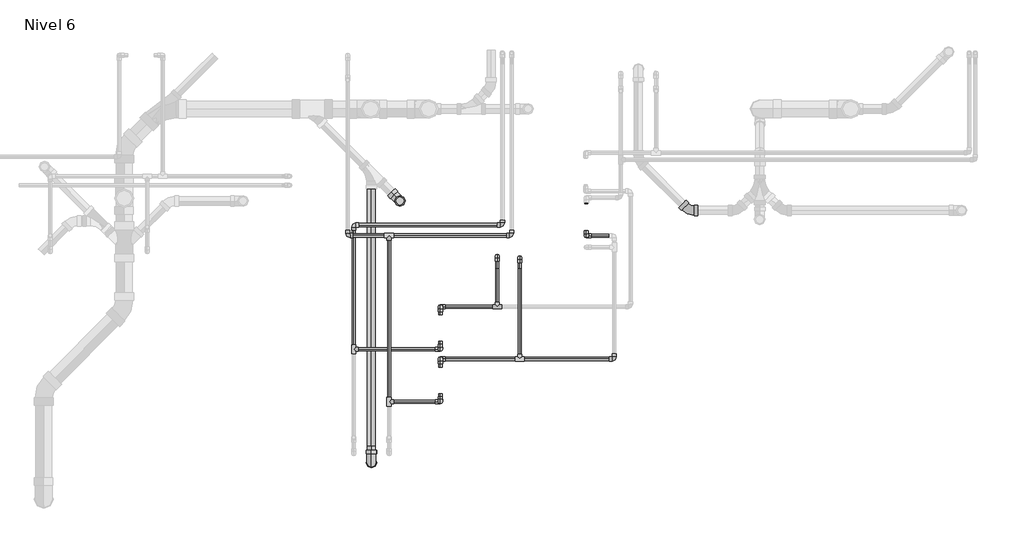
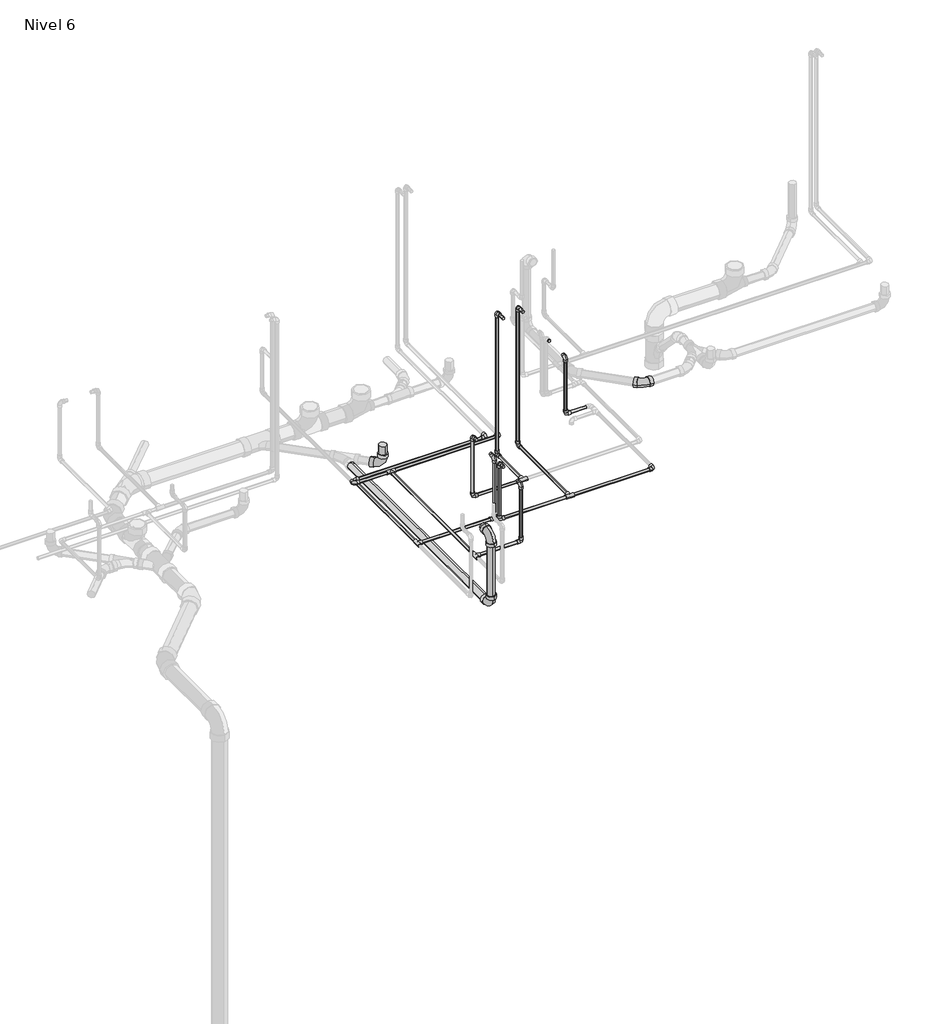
# One storey, part 4 of 11: 31 pipe segments, 28 pipe fittings.
"""IFC4 building model written with IfcOpenShell, lengths in millimetres."""

from ifc_helpers import new_model, si_unit, point, frame, frame_2d, origin, place, context, project, spatial, circle_curve, trimmed, segment, composite_curve, outline, extrude, transform, mapped, element, save
from components import pipe_fitting_ab418b84, m_codo_pvc_serie_40_9ad74631, m_codo_pvc_serie_40_dwv1_5c0ec739, m_codo_pvc_serie_40_dwv1_6f1a2495

model = new_model("IFC4")

# Units and contexts
model_context = context("Model", 3, world=origin())
ifc_project = project(units=[si_unit("LENGTHUNIT", "METRE", prefix="MILLI")], contexts=[model_context])

# Site, building, storey
site = spatial("IfcSite", under=ifc_project)
building = spatial("IfcBuilding", under=site)
storey = spatial("IfcBuildingStorey", under=building, Name="Nivel 6", Elevation=13400.0)

# Pipe fittings
placement = place(None, origin())
pipe_fitting_shape = pipe_fitting_ab418b84(model_context)
element("IfcPipeFitting", 1, ObjectType="M_Te - PVC - Serie 40 : Estándar", at=placement, inside=storey, context=model_context, shape_type="MappedRepresentation", body=[
    mapped(pipe_fitting_shape, transform((4953.4727327, 4599.4268515, 13350.0), x_axis=(0.0, 1.0, 0.0), y_axis=(-1.0, 0.0, 0.0), z_axis=(0.0, 0.0, 1.0))),
])
element("IfcPipeFitting", 2, ObjectType="M_Te - PVC - Serie 40 : Estándar", at=placement, inside=storey, context=model_context, shape_type="MappedRepresentation", body=[
    mapped(pipe_fitting_shape, transform((4716.7158993, 4949.4268515, 13320.0), x_axis=(0.0, 1.0, 0.0), y_axis=(-1.0, 0.0, 0.0), z_axis=(0.0, 0.0, 1.0))),
])
element("IfcPipeFitting", 3, ObjectType="M_Te - PVC - Serie 40 : Estándar", at=placement, inside=storey, context=model_context, shape_type="MappedRepresentation", body=[
    mapped(pipe_fitting_shape, transform((4953.4727327, 5709.8870077, 13350.0), x_axis=(-1.0, 0.0, 0.0), y_axis=(0.0, 1.0, 0.0), z_axis=(0.0, 0.0, -1.0))),
])
element("IfcPipeFitting", 4, ObjectType="M_Te - PVC - Serie 40 : Estándar", at=placement, inside=storey, context=model_context, shape_type="MappedRepresentation", body=[
    mapped(pipe_fitting_shape, transform((5676.7372643, 5234.4268515, 13320.0), x_axis=(1.0, 0.0, 0.0), y_axis=(0.0, -1.0, 0.0), z_axis=(0.0, 0.0, -1.0))),
])
element("IfcPipeFitting", 5, ObjectType="M_Te - PVC - Serie 40 : Estándar", at=placement, inside=storey, context=model_context, shape_type="MappedRepresentation", body=[
    mapped(pipe_fitting_shape, transform((5826.7372643, 4884.4268515, 13350.0), x_axis=(-1.0, 0.0, 0.0), y_axis=(0.0, -1.0, 0.0), z_axis=(0.0, 0.0, 1.0))),
])
m_codo_pvc_serie_40_shape = m_codo_pvc_serie_40_9ad74631(model_context)
element("IfcPipeFitting", 6, ObjectType="M_Codo - PVC - Serie 40 : Estándar", at=placement, inside=storey, context=model_context, shape_type="MappedRepresentation", body=[
    mapped(m_codo_pvc_serie_40_shape, transform((6273.0126322, 5708.0981896, 13350.0), x_axis=(-1.0, 0.0, 0.0), y_axis=(0.0, 0.0, 1.0), z_axis=(0.0, 1.0, 0.0))),
])
element("IfcPipeFitting", 7, ObjectType="M_Codo - PVC - Serie 40 : Estándar", at=placement, inside=storey, context=model_context, shape_type="MappedRepresentation", body=[
    mapped(m_codo_pvc_serie_40_shape, transform((6273.0126322, 5708.0981896, 13800.0), x_axis=(0.0, 0.0, 1.0), y_axis=(0.0, 1.0, 0.0), z_axis=(-1.0, 0.0, 0.0))),
])
element("IfcPipeFitting", 8, ObjectType="M_Codo - PVC - Serie 40 : Estándar", at=placement, inside=storey, context=model_context, shape_type="MappedRepresentation", body=[
    mapped(m_codo_pvc_serie_40_shape, transform((5297.1819258, 5234.4268515, 13800.0), x_axis=(0.0, 0.0, 1.0), y_axis=(0.0, -1.0, 0.0), z_axis=(1.0, 0.0, 0.0))),
])
element("IfcPipeFitting", 9, ObjectType="M_Codo - PVC - Serie 40 : Estándar", at=placement, inside=storey, context=model_context, shape_type="MappedRepresentation", body=[
    mapped(m_codo_pvc_serie_40_shape, transform((5297.1819258, 4949.4268515, 13800.0), x_axis=(0.0, -1.0, 0.0), y_axis=(0.0, 0.0, -1.0), z_axis=(1.0, 0.0, 0.0))),
])
element("IfcPipeFitting", 10, ObjectType="M_Codo - PVC - Serie 40 : Estándar", at=placement, inside=storey, context=model_context, shape_type="MappedRepresentation", body=[
    mapped(m_codo_pvc_serie_40_shape, transform((5297.1819258, 4949.4268515, 13320.0), x_axis=(0.0, 0.0, -1.0), y_axis=(-1.0, 0.0, 0.0), z_axis=(0.0, 1.0, 0.0))),
])
element("IfcPipeFitting", 11, ObjectType="M_Codo - PVC - Serie 40 : Estándar", at=placement, inside=storey, context=model_context, shape_type="MappedRepresentation", body=[
    mapped(m_codo_pvc_serie_40_shape, transform((5297.1819258, 4599.4268515, 13800.0), x_axis=(0.0, 0.0, 1.0), y_axis=(0.0, 1.0, 0.0), z_axis=(-1.0, 0.0, 0.0))),
])
element("IfcPipeFitting", 12, ObjectType="M_Codo - PVC - Serie 40 : Estándar", at=placement, inside=storey, context=model_context, shape_type="MappedRepresentation", body=[
    mapped(m_codo_pvc_serie_40_shape, transform((5297.1819258, 4884.4268515, 13800.0), x_axis=(0.0, 1.0, 0.0), y_axis=(0.0, 0.0, -1.0), z_axis=(-1.0, 0.0, 0.0))),
])
element("IfcPipeFitting", 13, ObjectType="M_Codo - PVC - Serie 40 : Estándar", at=placement, inside=storey, context=model_context, shape_type="MappedRepresentation", body=[
    mapped(m_codo_pvc_serie_40_shape, transform((5297.1819258, 4599.4268515, 13350.0), x_axis=(0.0, 0.0, -1.0), y_axis=(-1.0, 0.0, 0.0), z_axis=(0.0, 1.0, 0.0))),
])
element("IfcPipeFitting", 14, ObjectType="M_Codo - PVC - Serie 40 : Estándar", at=placement, inside=storey, context=model_context, shape_type="MappedRepresentation", body=[
    mapped(m_codo_pvc_serie_40_shape, transform((5711.6896051, 5779.8870077, 13320.0), x_axis=(1.0, 0.0, 0.0), y_axis=(0.0, 1.0, 0.0), z_axis=(0.0, 0.0, 1.0))),
])
element("IfcPipeFitting", 15, ObjectType="M_Codo - PVC - Serie 40 : Estándar", at=placement, inside=storey, context=model_context, shape_type="MappedRepresentation", body=[
    mapped(m_codo_pvc_serie_40_shape, transform((4716.7158993, 5779.8870077, 13320.0), x_axis=(-1.0, 0.0, 0.0), y_axis=(0.0, -1.0, 0.0), z_axis=(0.0, 0.0, 1.0))),
])
element("IfcPipeFitting", 16, ObjectType="M_Codo - PVC - Serie 40 : Estándar", at=placement, inside=storey, context=model_context, shape_type="MappedRepresentation", body=[
    mapped(m_codo_pvc_serie_40_shape, transform((5773.0126322, 5709.8870077, 13350.0), x_axis=(1.0, 0.0, 0.0), y_axis=(0.0, 1.0, 0.0), z_axis=(0.0, 0.0, 1.0))),
])
element("IfcPipeFitting", 17, ObjectType="M_Codo - PVC - Serie 40 : Estándar", at=placement, inside=storey, context=model_context, shape_type="MappedRepresentation", body=[
    mapped(m_codo_pvc_serie_40_shape, transform((4677.808318, 5709.8870077, 13350.0), x_axis=(0.0, -1.0, 0.0), y_axis=(1.0, 0.0, 0.0), z_axis=(0.0, 0.0, 1.0))),
])
element("IfcPipeFitting", 18, ObjectType="M_Codo - PVC - Serie 40 : Estándar", at=placement, inside=storey, context=model_context, shape_type="MappedRepresentation", body=[
    mapped(m_codo_pvc_serie_40_shape, transform((5826.7372643, 5560.6395855, 14450.0), x_axis=(0.0, 1.0, 0.0), y_axis=(0.0, 0.0, -1.0), z_axis=(-1.0, 0.0, 0.0))),
])
element("IfcPipeFitting", 19, ObjectType="M_Codo - PVC - Serie 40 : Estándar", at=placement, inside=storey, context=model_context, shape_type="MappedRepresentation", body=[
    mapped(m_codo_pvc_serie_40_shape, transform((5297.1819258, 4884.4268515, 13350.0), x_axis=(0.0, 0.0, -1.0), y_axis=(1.0, 0.0, 0.0), z_axis=(0.0, -1.0, 0.0))),
])
element("IfcPipeFitting", 20, ObjectType="M_Codo - PVC - Serie 40 : Estándar", at=placement, inside=storey, context=model_context, shape_type="MappedRepresentation", body=[
    mapped(m_codo_pvc_serie_40_shape, transform((5676.7372643, 5570.6395855, 14450.0), x_axis=(0.0, 1.0, 0.0), y_axis=(0.0, 0.0, -1.0), z_axis=(-1.0, 0.0, 0.0))),
])
element("IfcPipeFitting", 21, ObjectType="M_Codo - PVC - Serie 40 : Estándar", at=placement, inside=storey, context=model_context, shape_type="MappedRepresentation", body=[
    mapped(m_codo_pvc_serie_40_shape, transform((5676.7372643, 5570.6395855, 13320.0), x_axis=(0.0, 0.0, -1.0), y_axis=(0.0, -1.0, 0.0), z_axis=(-1.0, 0.0, 0.0))),
])
element("IfcPipeFitting", 22, ObjectType="M_Codo - PVC - Serie 40 : Estándar", at=placement, inside=storey, context=model_context, shape_type="MappedRepresentation", body=[
    mapped(m_codo_pvc_serie_40_shape, transform((5297.1819258, 5234.4268515, 13320.0), x_axis=(0.0, 0.0, -1.0), y_axis=(1.0, 0.0, 0.0), z_axis=(0.0, -1.0, 0.0))),
])
element("IfcPipeFitting", 23, ObjectType="M_Codo - PVC - Serie 40 : Estándar", at=placement, inside=storey, context=model_context, shape_type="MappedRepresentation", body=[
    mapped(m_codo_pvc_serie_40_shape, transform((5826.7372643, 5560.6395855, 13350.0), x_axis=(0.0, 0.0, -1.0), y_axis=(0.0, -1.0, 0.0), z_axis=(-1.0, 0.0, 0.0))),
])
element("IfcPipeFitting", 24, ObjectType="M_Codo - PVC - Serie 40 : Estándar", at=placement, inside=storey, context=model_context, shape_type="MappedRepresentation", body=[
    mapped(m_codo_pvc_serie_40_shape, transform((6459.9908844, 4884.4268515, 13350.0), x_axis=(1.0, 0.0, 0.0), y_axis=(0.0, 1.0, 0.0), z_axis=(0.0, 0.0, 1.0))),
])
m_codo_pvc_serie_40_dwv1_shape = m_codo_pvc_serie_40_dwv1_5c0ec739(model_context)
element("IfcPipeFitting", 25, ObjectType="M_Codo - PVC - Serie 40 - DWV1 : Estándar 2", at=placement, inside=storey, context=model_context, shape_type="MappedRepresentation", body=[
    mapped(m_codo_pvc_serie_40_dwv1_shape, transform((4835.094316, 4192.0580366, 13810.6716548), x_axis=(0.0, -1.0, 0.0), y_axis=(0.0, 0.0, -1.0), z_axis=(1.0, 0.0, 0.0))),
])
element("IfcPipeFitting", 26, ObjectType="M_Codo - PVC - Serie 40 - DWV1 : Estándar 2", at=placement, inside=storey, context=model_context, shape_type="MappedRepresentation", body=[
    mapped(m_codo_pvc_serie_40_dwv1_shape, transform((4835.094316, 4192.0580366, 13250.0), x_axis=(0.0, 0.0, -1.0), y_axis=(0.0, 1.0, 0.0), z_axis=(1.0, 0.0, 0.0))),
])
element("IfcPipeFitting", 27, ObjectType="M_Codo - PVC - Serie 40 - DWV1 : Estándar 2", at=placement, inside=storey, context=model_context, shape_type="MappedRepresentation", body=[
    mapped(m_codo_pvc_serie_40_dwv1_shape, transform((5026.6967396, 5940.455613, 13250.0), x_axis=(0.7071067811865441, -0.7071067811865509, 0.0), y_axis=(0.0, 0.0, 1.0), z_axis=(-0.7071067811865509, -0.7071067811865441, 0.0))),
])
m_codo_pvc_serie_40_dwv1_2_shape = m_codo_pvc_serie_40_dwv1_6f1a2495(model_context)
element("IfcPipeFitting", 28, ObjectType="M_Codo - PVC - Serie 40 - DWV1 : Estándar 2", at=placement, inside=storey, context=model_context, shape_type="MappedRepresentation", body=[
    mapped(m_codo_pvc_serie_40_dwv1_2_shape, transform((6957.2043613, 5877.7956387, 13250.0), x_axis=(0.7071067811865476, -0.7071067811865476, 0.0), y_axis=(0.7071067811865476, 0.7071067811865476, 0.0), z_axis=(0.0, 0.0, 1.0))),
])

# Pipe segments
element("IfcPipeSegment", 29, ObjectType="Tuberia PVC Agua Fria", at=placement, inside=storey, context=model_context, shape_type="SweptSolid", body=[
    extrude(outline(composite_curve([segment(trimmed(circle_curve(frame_2d((5708.0981896, 13350.0)), 10.31875), [point((5718.4169396, 13350.0))], [point((5708.0981896, 13339.68125))], False, "CARTESIAN"), True, "CONTINUOUS"), segment(trimmed(circle_curve(frame_2d((5708.0981896, 13350.0)), 10.31875), [point((5708.0981896, 13339.68125))], [point((5697.7794396, 13350.0))], False, "CARTESIAN"), True, "CONTINUOUS"), segment(trimmed(circle_curve(frame_2d((5708.0981896, 13350.0)), 10.31875), [point((5697.7794396, 13350.0))], [point((5708.0981896, 13360.31875))], False, "CARTESIAN"), True, "CONTINUOUS"), segment(trimmed(circle_curve(frame_2d((5708.0981896, 13350.0)), 10.31875), [point((5708.0981896, 13360.31875))], [point((5718.4169396, 13350.0))], False, "CARTESIAN"), True, "CONTINUOUS")], self_intersect=False)), frame((6306.4136322, 0.0, 0.0), z_axis=(1.0, 0.0, 0.0), x_axis=(0.0, 1.0, 0.0)), (0.0, 0.0, 1.0), 120.1762523),
])
element("IfcPipeSegment", 30, ObjectType="Tuberia PVC Agua Fria", at=placement, inside=storey, context=model_context, shape_type="SweptSolid", body=[
    extrude(outline(composite_curve([segment(trimmed(circle_curve(frame_2d((13800.0, 6273.0126322)), 10.31875), [point((13800.0, 6283.3313822))], [point((13810.31875, 6273.0126322))], False, "CARTESIAN"), True, "CONTINUOUS"), segment(trimmed(circle_curve(frame_2d((13800.0, 6273.0126322)), 10.31875), [point((13810.31875, 6273.0126322))], [point((13800.0, 6262.6938822))], False, "CARTESIAN"), True, "CONTINUOUS"), segment(trimmed(circle_curve(frame_2d((13800.0, 6273.0126322)), 10.31875), [point((13800.0, 6262.6938822))], [point((13789.68125, 6273.0126322))], False, "CARTESIAN"), True, "CONTINUOUS"), segment(trimmed(circle_curve(frame_2d((13800.0, 6273.0126322)), 10.31875), [point((13789.68125, 6273.0126322))], [point((13800.0, 6283.3313822))], False, "CARTESIAN"), True, "CONTINUOUS")], self_intersect=False)), frame((0.0, 5922.0981896, 0.0), z_axis=(0.0, 1.0, 0.0), x_axis=(0.0, 0.0, 1.0)), (0.0, 0.0, 1.0), 7.599),
])
element("IfcPipeSegment", 31, ObjectType="Tuberia PVC Agua Fria", at=placement, inside=storey, context=model_context, shape_type="SweptSolid", body=[
    extrude(outline(composite_curve([segment(trimmed(circle_curve(frame_2d((6273.0126322, 5708.0981896)), 10.31875), [point((6262.6938822, 5708.0981896))], [point((6273.0126322, 5718.4169396))], False, "CARTESIAN"), True, "CONTINUOUS"), segment(trimmed(circle_curve(frame_2d((6273.0126322, 5708.0981896)), 10.31875), [point((6273.0126322, 5718.4169396))], [point((6283.3313822, 5708.0981896))], False, "CARTESIAN"), True, "CONTINUOUS"), segment(trimmed(circle_curve(frame_2d((6273.0126322, 5708.0981896)), 10.31875), [point((6283.3313822, 5708.0981896))], [point((6273.0126322, 5697.7794396))], False, "CARTESIAN"), True, "CONTINUOUS"), segment(trimmed(circle_curve(frame_2d((6273.0126322, 5708.0981896)), 10.31875), [point((6273.0126322, 5697.7794396))], [point((6262.6938822, 5708.0981896))], False, "CARTESIAN"), True, "CONTINUOUS")], self_intersect=False)), frame((0.0, 0.0, 13383.401), z_axis=(0.0, 0.0, 1.0), x_axis=(1.0, 0.0, 0.0)), (0.0, 0.0, 1.0), 383.198),
])
element("IfcPipeSegment", 32, ObjectType="Tuberia PVC Agua Fria", at=placement, inside=storey, context=model_context, shape_type="SweptSolid", body=[
    extrude(outline(composite_curve([segment(trimmed(circle_curve(frame_2d((4599.4268515, 13350.0)), 10.31875), [point((4609.7456015, 13350.0))], [point((4599.4268515, 13339.68125))], False, "CARTESIAN"), True, "CONTINUOUS"), segment(trimmed(circle_curve(frame_2d((4599.4268515, 13350.0)), 10.31875), [point((4599.4268515, 13339.68125))], [point((4589.1081015, 13350.0))], False, "CARTESIAN"), True, "CONTINUOUS"), segment(trimmed(circle_curve(frame_2d((4599.4268515, 13350.0)), 10.31875), [point((4589.1081015, 13350.0))], [point((4599.4268515, 13360.31875))], False, "CARTESIAN"), True, "CONTINUOUS"), segment(trimmed(circle_curve(frame_2d((4599.4268515, 13350.0)), 10.31875), [point((4599.4268515, 13360.31875))], [point((4609.7456015, 13350.0))], False, "CARTESIAN"), True, "CONTINUOUS")], self_intersect=False)), frame((4983.9328889, 0.0, 0.0), z_axis=(1.0, 0.0, 0.0), x_axis=(0.0, 1.0, 0.0)), (0.0, 0.0, 1.0), 279.8480369),
])
element("IfcPipeSegment", 33, ObjectType="Tuberia PVC Agua Fria", at=placement, inside=storey, context=model_context, shape_type="SweptSolid", body=[
    extrude(outline(composite_curve([segment(trimmed(circle_curve(frame_2d((13800.0, 5297.1819258)), 10.31875), [point((13800.0, 5307.5006758))], [point((13810.31875, 5297.1819258))], False, "CARTESIAN"), True, "CONTINUOUS"), segment(trimmed(circle_curve(frame_2d((13800.0, 5297.1819258)), 10.31875), [point((13810.31875, 5297.1819258))], [point((13800.0, 5286.8631758))], False, "CARTESIAN"), True, "CONTINUOUS"), segment(trimmed(circle_curve(frame_2d((13800.0, 5297.1819258)), 10.31875), [point((13800.0, 5286.8631758))], [point((13789.68125, 5297.1819258))], False, "CARTESIAN"), True, "CONTINUOUS"), segment(trimmed(circle_curve(frame_2d((13800.0, 5297.1819258)), 10.31875), [point((13789.68125, 5297.1819258))], [point((13800.0, 5307.5006758))], False, "CARTESIAN"), True, "CONTINUOUS")], self_intersect=False)), frame((0.0, 4828.4268515, 0.0), z_axis=(0.0, 1.0, 0.0), x_axis=(0.0, 0.0, 1.0)), (0.0, 0.0, 1.0), 22.599),
])
element("IfcPipeSegment", 34, ObjectType="Tuberia PVC Agua Fria", at=placement, inside=storey, context=model_context, shape_type="SweptSolid", body=[
    extrude(outline(composite_curve([segment(trimmed(circle_curve(frame_2d((5297.1819258, 4599.4268515)), 10.31875), [point((5286.8631758, 4599.4268515))], [point((5297.1819258, 4609.7456015))], False, "CARTESIAN"), True, "CONTINUOUS"), segment(trimmed(circle_curve(frame_2d((5297.1819258, 4599.4268515)), 10.31875), [point((5297.1819258, 4609.7456015))], [point((5307.5006758, 4599.4268515))], False, "CARTESIAN"), True, "CONTINUOUS"), segment(trimmed(circle_curve(frame_2d((5297.1819258, 4599.4268515)), 10.31875), [point((5307.5006758, 4599.4268515))], [point((5297.1819258, 4589.1081015))], False, "CARTESIAN"), True, "CONTINUOUS"), segment(trimmed(circle_curve(frame_2d((5297.1819258, 4599.4268515)), 10.31875), [point((5297.1819258, 4589.1081015))], [point((5286.8631758, 4599.4268515))], False, "CARTESIAN"), True, "CONTINUOUS")], self_intersect=False)), frame((0.0, 0.0, 13383.401), z_axis=(0.0, 0.0, 1.0), x_axis=(1.0, 0.0, 0.0)), (0.0, 0.0, 1.0), 383.198),
])
element("IfcPipeSegment", 35, ObjectType="Tuberia PVC Agua Fria", at=placement, inside=storey, context=model_context, shape_type="SweptSolid", body=[
    extrude(outline(composite_curve([segment(trimmed(circle_curve(frame_2d((5297.1819258, 4884.4268515)), 10.31875), [point((5307.5006758, 4884.4268515))], [point((5297.1819258, 4874.1081015))], False, "CARTESIAN"), True, "CONTINUOUS"), segment(trimmed(circle_curve(frame_2d((5297.1819258, 4884.4268515)), 10.31875), [point((5297.1819258, 4874.1081015))], [point((5286.8631758, 4884.4268515))], False, "CARTESIAN"), True, "CONTINUOUS"), segment(trimmed(circle_curve(frame_2d((5297.1819258, 4884.4268515)), 10.31875), [point((5286.8631758, 4884.4268515))], [point((5297.1819258, 4894.7456015))], False, "CARTESIAN"), True, "CONTINUOUS"), segment(trimmed(circle_curve(frame_2d((5297.1819258, 4884.4268515)), 10.31875), [point((5297.1819258, 4894.7456015))], [point((5307.5006758, 4884.4268515))], False, "CARTESIAN"), True, "CONTINUOUS")], self_intersect=False)), frame((0.0, 0.0, 13383.401), z_axis=(0.0, 0.0, 1.0), x_axis=(1.0, 0.0, 0.0)), (0.0, 0.0, 1.0), 383.198),
])
element("IfcPipeSegment", 36, ObjectType="Tuberia PVC Agua Fria", at=placement, inside=storey, context=model_context, shape_type="SweptSolid", body=[
    extrude(outline(composite_curve([segment(trimmed(circle_curve(frame_2d((13800.0, 5297.1819258)), 10.31875), [point((13800.0, 5307.5006758))], [point((13810.31875, 5297.1819258))], False, "CARTESIAN"), True, "CONTINUOUS"), segment(trimmed(circle_curve(frame_2d((13800.0, 5297.1819258)), 10.31875), [point((13810.31875, 5297.1819258))], [point((13800.0, 5286.8631758))], False, "CARTESIAN"), True, "CONTINUOUS"), segment(trimmed(circle_curve(frame_2d((13800.0, 5297.1819258)), 10.31875), [point((13800.0, 5286.8631758))], [point((13789.68125, 5297.1819258))], False, "CARTESIAN"), True, "CONTINUOUS"), segment(trimmed(circle_curve(frame_2d((13800.0, 5297.1819258)), 10.31875), [point((13789.68125, 5297.1819258))], [point((13800.0, 5307.5006758))], False, "CARTESIAN"), True, "CONTINUOUS")], self_intersect=False)), frame((0.0, 4632.8278515, 0.0), z_axis=(0.0, 1.0, 0.0), x_axis=(0.0, 0.0, 1.0)), (0.0, 0.0, 1.0), 17.599),
])
element("IfcPipeSegment", 37, ObjectType="Tuberia PVC Agua Fria", at=placement, inside=storey, context=model_context, shape_type="SweptSolid", body=[
    extrude(outline(composite_curve([segment(trimmed(circle_curve(frame_2d((13350.0, 4953.4727327)), 10.31875), [point((13350.0, 4963.7914827))], [point((13360.31875, 4953.4727327))], False, "CARTESIAN"), True, "CONTINUOUS"), segment(trimmed(circle_curve(frame_2d((13350.0, 4953.4727327)), 10.31875), [point((13360.31875, 4953.4727327))], [point((13350.0, 4943.1539827))], False, "CARTESIAN"), True, "CONTINUOUS"), segment(trimmed(circle_curve(frame_2d((13350.0, 4953.4727327)), 10.31875), [point((13350.0, 4943.1539827))], [point((13339.68125, 4953.4727327))], False, "CARTESIAN"), True, "CONTINUOUS"), segment(trimmed(circle_curve(frame_2d((13350.0, 4953.4727327)), 10.31875), [point((13339.68125, 4953.4727327))], [point((13350.0, 4963.7914827))], False, "CARTESIAN"), True, "CONTINUOUS")], self_intersect=False)), frame((0.0, 4629.8870077, 0.0), z_axis=(0.0, 1.0, 0.0), x_axis=(0.0, 0.0, 1.0)), (0.0, 0.0, 1.0), 1049.5398438),
])
element("IfcPipeSegment", 38, ObjectType="Tuberia PVC Agua Fria", at=placement, inside=storey, context=model_context, shape_type="SweptSolid", body=[
    extrude(outline(composite_curve([segment(trimmed(circle_curve(frame_2d((5709.8870077, 13350.0)), 10.31875), [point((5720.2057577, 13350.0))], [point((5709.8870077, 13339.68125))], False, "CARTESIAN"), True, "CONTINUOUS"), segment(trimmed(circle_curve(frame_2d((5709.8870077, 13350.0)), 10.31875), [point((5709.8870077, 13339.68125))], [point((5699.5682577, 13350.0))], False, "CARTESIAN"), True, "CONTINUOUS"), segment(trimmed(circle_curve(frame_2d((5709.8870077, 13350.0)), 10.31875), [point((5699.5682577, 13350.0))], [point((5709.8870077, 13360.31875))], False, "CARTESIAN"), True, "CONTINUOUS"), segment(trimmed(circle_curve(frame_2d((5709.8870077, 13350.0)), 10.31875), [point((5709.8870077, 13360.31875))], [point((5720.2057577, 13350.0))], False, "CARTESIAN"), True, "CONTINUOUS")], self_intersect=False)), frame((4983.9328889, 0.0, 0.0), z_axis=(1.0, 0.0, 0.0), x_axis=(0.0, 1.0, 0.0)), (0.0, 0.0, 1.0), 755.6787433),
])
element("IfcPipeSegment", 39, ObjectType="Tuberia PVC Agua Fria", at=placement, inside=storey, context=model_context, shape_type="SweptSolid", body=[
    extrude(outline(composite_curve([segment(trimmed(circle_curve(frame_2d((5709.8870077, 13350.0)), 10.31875), [point((5699.5682577, 13350.0))], [point((5709.8870077, 13360.31875))], False, "CARTESIAN"), True, "CONTINUOUS"), segment(trimmed(circle_curve(frame_2d((5709.8870077, 13350.0)), 10.31875), [point((5709.8870077, 13360.31875))], [point((5720.2057577, 13350.0))], False, "CARTESIAN"), True, "CONTINUOUS"), segment(trimmed(circle_curve(frame_2d((5709.8870077, 13350.0)), 10.31875), [point((5720.2057577, 13350.0))], [point((5709.8870077, 13339.68125))], False, "CARTESIAN"), True, "CONTINUOUS"), segment(trimmed(circle_curve(frame_2d((5709.8870077, 13350.0)), 10.31875), [point((5709.8870077, 13339.68125))], [point((5699.5682577, 13350.0))], False, "CARTESIAN"), True, "CONTINUOUS")], self_intersect=False)), frame((4711.209318, 0.0, 0.0), z_axis=(1.0, 0.0, 0.0), x_axis=(0.0, 1.0, 0.0)), (0.0, 0.0, 1.0), 211.8032585),
])
element("IfcPipeSegment", 40, ObjectType="Tuberia PVC Agua Fria", at=placement, inside=storey, context=model_context, shape_type="SweptSolid", body=[
    extrude(outline(composite_curve([segment(trimmed(circle_curve(frame_2d((14450.0, 5826.7372643)), 10.31875), [point((14450.0, 5837.0560143))], [point((14460.31875, 5826.7372643))], False, "CARTESIAN"), True, "CONTINUOUS"), segment(trimmed(circle_curve(frame_2d((14450.0, 5826.7372643)), 10.31875), [point((14460.31875, 5826.7372643))], [point((14450.0, 5816.4185143))], False, "CARTESIAN"), True, "CONTINUOUS"), segment(trimmed(circle_curve(frame_2d((14450.0, 5826.7372643)), 10.31875), [point((14450.0, 5816.4185143))], [point((14439.68125, 5826.7372643))], False, "CARTESIAN"), True, "CONTINUOUS"), segment(trimmed(circle_curve(frame_2d((14450.0, 5826.7372643)), 10.31875), [point((14439.68125, 5826.7372643))], [point((14450.0, 5837.0560143))], False, "CARTESIAN"), True, "CONTINUOUS")], self_intersect=False)), frame((0.0, 5490.6395855, 0.0), z_axis=(0.0, 1.0, 0.0), x_axis=(0.0, 0.0, 1.0)), (0.0, 0.0, 1.0), 36.599),
])
element("IfcPipeSegment", 41, ObjectType="Tuberia PVC Agua Fria", at=placement, inside=storey, context=model_context, shape_type="SweptSolid", body=[
    extrude(outline(composite_curve([segment(trimmed(circle_curve(frame_2d((13350.0, 5826.7372643)), 10.31875), [point((13350.0, 5816.4185143))], [point((13339.68125, 5826.7372643))], False, "CARTESIAN"), True, "CONTINUOUS"), segment(trimmed(circle_curve(frame_2d((13350.0, 5826.7372643)), 10.31875), [point((13339.68125, 5826.7372643))], [point((13350.0, 5837.0560143))], False, "CARTESIAN"), True, "CONTINUOUS"), segment(trimmed(circle_curve(frame_2d((13350.0, 5826.7372643)), 10.31875), [point((13350.0, 5837.0560143))], [point((13360.31875, 5826.7372643))], False, "CARTESIAN"), True, "CONTINUOUS"), segment(trimmed(circle_curve(frame_2d((13350.0, 5826.7372643)), 10.31875), [point((13360.31875, 5826.7372643))], [point((13350.0, 5816.4185143))], False, "CARTESIAN"), True, "CONTINUOUS")], self_intersect=False)), frame((0.0, 4914.8870077, 0.0), z_axis=(0.0, 1.0, 0.0), x_axis=(0.0, 0.0, 1.0)), (0.0, 0.0, 1.0), 612.3515778),
])
element("IfcPipeSegment", 42, ObjectType="Tuberia PVC Agua Fria", at=placement, inside=storey, context=model_context, shape_type="SweptSolid", body=[
    extrude(outline(composite_curve([segment(trimmed(circle_curve(frame_2d((5826.7372643, 5560.6395855)), 10.31875), [point((5837.0560143, 5560.6395855))], [point((5826.7372643, 5550.3208355))], False, "CARTESIAN"), True, "CONTINUOUS"), segment(trimmed(circle_curve(frame_2d((5826.7372643, 5560.6395855)), 10.31875), [point((5826.7372643, 5550.3208355))], [point((5816.4185143, 5560.6395855))], False, "CARTESIAN"), True, "CONTINUOUS"), segment(trimmed(circle_curve(frame_2d((5826.7372643, 5560.6395855)), 10.31875), [point((5816.4185143, 5560.6395855))], [point((5826.7372643, 5570.9583355))], False, "CARTESIAN"), True, "CONTINUOUS"), segment(trimmed(circle_curve(frame_2d((5826.7372643, 5560.6395855)), 10.31875), [point((5826.7372643, 5570.9583355))], [point((5837.0560143, 5560.6395855))], False, "CARTESIAN"), True, "CONTINUOUS")], self_intersect=False)), frame((0.0, 0.0, 13383.401), z_axis=(0.0, 0.0, 1.0), x_axis=(1.0, 0.0, 0.0)), (0.0, 0.0, 1.0), 1033.198),
])
element("IfcPipeSegment", 43, ObjectType="Tuberia PVC Agua Fria", at=placement, inside=storey, context=model_context, shape_type="SweptSolid", body=[
    extrude(outline(composite_curve([segment(trimmed(circle_curve(frame_2d((4884.4268515, 13350.0)), 10.31875), [point((4874.1081015, 13350.0))], [point((4884.4268515, 13360.31875))], False, "CARTESIAN"), True, "CONTINUOUS"), segment(trimmed(circle_curve(frame_2d((4884.4268515, 13350.0)), 10.31875), [point((4884.4268515, 13360.31875))], [point((4894.7456015, 13350.0))], False, "CARTESIAN"), True, "CONTINUOUS"), segment(trimmed(circle_curve(frame_2d((4884.4268515, 13350.0)), 10.31875), [point((4894.7456015, 13350.0))], [point((4884.4268515, 13339.68125))], False, "CARTESIAN"), True, "CONTINUOUS"), segment(trimmed(circle_curve(frame_2d((4884.4268515, 13350.0)), 10.31875), [point((4884.4268515, 13339.68125))], [point((4874.1081015, 13350.0))], False, "CARTESIAN"), True, "CONTINUOUS")], self_intersect=False)), frame((5857.1974206, 0.0, 0.0), z_axis=(1.0, 0.0, 0.0), x_axis=(0.0, 1.0, 0.0)), (0.0, 0.0, 1.0), 569.3924638),
])
element("IfcPipeSegment", 44, ObjectType="Tuberia PVC Agua Fria", at=placement, inside=storey, context=model_context, shape_type="SweptSolid", body=[
    extrude(outline(composite_curve([segment(trimmed(circle_curve(frame_2d((4884.4268515, 13350.0)), 10.31875), [point((4874.1081015, 13350.0))], [point((4884.4268515, 13360.31875))], False, "CARTESIAN"), True, "CONTINUOUS"), segment(trimmed(circle_curve(frame_2d((4884.4268515, 13350.0)), 10.31875), [point((4884.4268515, 13360.31875))], [point((4894.7456015, 13350.0))], False, "CARTESIAN"), True, "CONTINUOUS"), segment(trimmed(circle_curve(frame_2d((4884.4268515, 13350.0)), 10.31875), [point((4894.7456015, 13350.0))], [point((4884.4268515, 13339.68125))], False, "CARTESIAN"), True, "CONTINUOUS"), segment(trimmed(circle_curve(frame_2d((4884.4268515, 13350.0)), 10.31875), [point((4884.4268515, 13339.68125))], [point((4874.1081015, 13350.0))], False, "CARTESIAN"), True, "CONTINUOUS")], self_intersect=False)), frame((5330.5829258, 0.0, 0.0), z_axis=(1.0, 0.0, 0.0), x_axis=(0.0, 1.0, 0.0)), (0.0, 0.0, 1.0), 465.6941823),
])
element("IfcPipeSegment", 45, ObjectType="Tuberia PVC Agua Caliente", at=placement, inside=storey, context=model_context, shape_type="SweptSolid", body=[
    extrude(outline(composite_curve([segment(trimmed(circle_curve(frame_2d((5234.4268515, 13320.0)), 10.31875), [point((5224.1081015, 13320.0))], [point((5234.4268515, 13330.31875))], False, "CARTESIAN"), True, "CONTINUOUS"), segment(trimmed(circle_curve(frame_2d((5234.4268515, 13320.0)), 10.31875), [point((5234.4268515, 13330.31875))], [point((5244.7456015, 13320.0))], False, "CARTESIAN"), True, "CONTINUOUS"), segment(trimmed(circle_curve(frame_2d((5234.4268515, 13320.0)), 10.31875), [point((5244.7456015, 13320.0))], [point((5234.4268515, 13309.68125))], False, "CARTESIAN"), True, "CONTINUOUS"), segment(trimmed(circle_curve(frame_2d((5234.4268515, 13320.0)), 10.31875), [point((5234.4268515, 13309.68125))], [point((5224.1081015, 13320.0))], False, "CARTESIAN"), True, "CONTINUOUS")], self_intersect=False)), frame((5330.5829258, 0.0, 0.0), z_axis=(1.0, 0.0, 0.0), x_axis=(0.0, 1.0, 0.0)), (0.0, 0.0, 1.0), 315.6941823),
])
element("IfcPipeSegment", 46, ObjectType="Tuberia PVC Agua Caliente", at=placement, inside=storey, context=model_context, shape_type="SweptSolid", body=[
    extrude(outline(composite_curve([segment(trimmed(circle_curve(frame_2d((13800.0, 5297.1819258)), 10.31875), [point((13800.0, 5286.8631758))], [point((13789.68125, 5297.1819258))], False, "CARTESIAN"), True, "CONTINUOUS"), segment(trimmed(circle_curve(frame_2d((13800.0, 5297.1819258)), 10.31875), [point((13789.68125, 5297.1819258))], [point((13800.0, 5307.5006758))], False, "CARTESIAN"), True, "CONTINUOUS"), segment(trimmed(circle_curve(frame_2d((13800.0, 5297.1819258)), 10.31875), [point((13800.0, 5307.5006758))], [point((13810.31875, 5297.1819258))], False, "CARTESIAN"), True, "CONTINUOUS"), segment(trimmed(circle_curve(frame_2d((13800.0, 5297.1819258)), 10.31875), [point((13810.31875, 5297.1819258))], [point((13800.0, 5286.8631758))], False, "CARTESIAN"), True, "CONTINUOUS")], self_intersect=False)), frame((0.0, 4982.8278515, 0.0), z_axis=(0.0, 1.0, 0.0), x_axis=(0.0, 0.0, 1.0)), (0.0, 0.0, 1.0), 20.099),
])
element("IfcPipeSegment", 47, ObjectType="Tuberia PVC Agua Caliente", at=placement, inside=storey, context=model_context, shape_type="SweptSolid", body=[
    extrude(outline(composite_curve([segment(trimmed(circle_curve(frame_2d((5297.1819258, 5234.4268515)), 10.31875), [point((5286.8631758, 5234.4268515))], [point((5297.1819258, 5244.7456015))], False, "CARTESIAN"), True, "CONTINUOUS"), segment(trimmed(circle_curve(frame_2d((5297.1819258, 5234.4268515)), 10.31875), [point((5297.1819258, 5244.7456015))], [point((5307.5006758, 5234.4268515))], False, "CARTESIAN"), True, "CONTINUOUS"), segment(trimmed(circle_curve(frame_2d((5297.1819258, 5234.4268515)), 10.31875), [point((5307.5006758, 5234.4268515))], [point((5297.1819258, 5224.1081015))], False, "CARTESIAN"), True, "CONTINUOUS"), segment(trimmed(circle_curve(frame_2d((5297.1819258, 5234.4268515)), 10.31875), [point((5297.1819258, 5224.1081015))], [point((5286.8631758, 5234.4268515))], False, "CARTESIAN"), True, "CONTINUOUS")], self_intersect=False)), frame((0.0, 0.0, 13353.401), z_axis=(0.0, 0.0, 1.0), x_axis=(1.0, 0.0, 0.0)), (0.0, 0.0, 1.0), 413.198),
])
element("IfcPipeSegment", 48, ObjectType="Tuberia PVC Agua Caliente", at=placement, inside=storey, context=model_context, shape_type="SweptSolid", body=[
    extrude(outline(composite_curve([segment(trimmed(circle_curve(frame_2d((4949.4268515, 13320.0)), 10.31875), [point((4959.7456015, 13320.0))], [point((4949.4268515, 13309.68125))], False, "CARTESIAN"), True, "CONTINUOUS"), segment(trimmed(circle_curve(frame_2d((4949.4268515, 13320.0)), 10.31875), [point((4949.4268515, 13309.68125))], [point((4939.1081015, 13320.0))], False, "CARTESIAN"), True, "CONTINUOUS"), segment(trimmed(circle_curve(frame_2d((4949.4268515, 13320.0)), 10.31875), [point((4939.1081015, 13320.0))], [point((4949.4268515, 13330.31875))], False, "CARTESIAN"), True, "CONTINUOUS"), segment(trimmed(circle_curve(frame_2d((4949.4268515, 13320.0)), 10.31875), [point((4949.4268515, 13330.31875))], [point((4959.7456015, 13320.0))], False, "CARTESIAN"), True, "CONTINUOUS")], self_intersect=False)), frame((4747.1760556, 0.0, 0.0), z_axis=(1.0, 0.0, 0.0), x_axis=(0.0, 1.0, 0.0)), (0.0, 0.0, 1.0), 516.6048702),
])
element("IfcPipeSegment", 49, ObjectType="Tuberia PVC Agua Caliente", at=placement, inside=storey, context=model_context, shape_type="SweptSolid", body=[
    extrude(outline(composite_curve([segment(trimmed(circle_curve(frame_2d((5297.1819258, 4949.4268515)), 10.31875), [point((5307.5006758, 4949.4268515))], [point((5297.1819258, 4939.1081015))], False, "CARTESIAN"), True, "CONTINUOUS"), segment(trimmed(circle_curve(frame_2d((5297.1819258, 4949.4268515)), 10.31875), [point((5297.1819258, 4939.1081015))], [point((5286.8631758, 4949.4268515))], False, "CARTESIAN"), True, "CONTINUOUS"), segment(trimmed(circle_curve(frame_2d((5297.1819258, 4949.4268515)), 10.31875), [point((5286.8631758, 4949.4268515))], [point((5297.1819258, 4959.7456015))], False, "CARTESIAN"), True, "CONTINUOUS"), segment(trimmed(circle_curve(frame_2d((5297.1819258, 4949.4268515)), 10.31875), [point((5297.1819258, 4959.7456015))], [point((5307.5006758, 4949.4268515))], False, "CARTESIAN"), True, "CONTINUOUS")], self_intersect=False)), frame((0.0, 0.0, 13353.401), z_axis=(0.0, 0.0, 1.0), x_axis=(1.0, 0.0, 0.0)), (0.0, 0.0, 1.0), 413.198),
])
element("IfcPipeSegment", 50, ObjectType="Tuberia PVC Agua Caliente", at=placement, inside=storey, context=model_context, shape_type="SweptSolid", body=[
    extrude(outline(composite_curve([segment(trimmed(circle_curve(frame_2d((13800.0, 5297.1819258)), 10.31875), [point((13800.0, 5286.8631758))], [point((13789.68125, 5297.1819258))], False, "CARTESIAN"), True, "CONTINUOUS"), segment(trimmed(circle_curve(frame_2d((13800.0, 5297.1819258)), 10.31875), [point((13789.68125, 5297.1819258))], [point((13800.0, 5307.5006758))], False, "CARTESIAN"), True, "CONTINUOUS"), segment(trimmed(circle_curve(frame_2d((13800.0, 5297.1819258)), 10.31875), [point((13800.0, 5307.5006758))], [point((13810.31875, 5297.1819258))], False, "CARTESIAN"), True, "CONTINUOUS"), segment(trimmed(circle_curve(frame_2d((13800.0, 5297.1819258)), 10.31875), [point((13810.31875, 5297.1819258))], [point((13800.0, 5286.8631758))], False, "CARTESIAN"), True, "CONTINUOUS")], self_intersect=False)), frame((0.0, 5180.9268515, 0.0), z_axis=(0.0, 1.0, 0.0), x_axis=(0.0, 0.0, 1.0)), (0.0, 0.0, 1.0), 20.099),
])
element("IfcPipeSegment", 51, ObjectType="Tuberia PVC Agua Caliente", at=placement, inside=storey, context=model_context, shape_type="SweptSolid", body=[
    extrude(outline(composite_curve([segment(trimmed(circle_curve(frame_2d((13320.0, 4716.7158993)), 10.31875), [point((13320.0, 4727.0346493))], [point((13330.31875, 4716.7158993))], False, "CARTESIAN"), True, "CONTINUOUS"), segment(trimmed(circle_curve(frame_2d((13320.0, 4716.7158993)), 10.31875), [point((13330.31875, 4716.7158993))], [point((13320.0, 4706.3971493))], False, "CARTESIAN"), True, "CONTINUOUS"), segment(trimmed(circle_curve(frame_2d((13320.0, 4716.7158993)), 10.31875), [point((13320.0, 4706.3971493))], [point((13309.68125, 4716.7158993))], False, "CARTESIAN"), True, "CONTINUOUS"), segment(trimmed(circle_curve(frame_2d((13320.0, 4716.7158993)), 10.31875), [point((13309.68125, 4716.7158993))], [point((13320.0, 4727.0346493))], False, "CARTESIAN"), True, "CONTINUOUS")], self_intersect=False)), frame((0.0, 4979.8870077, 0.0), z_axis=(0.0, 1.0, 0.0), x_axis=(0.0, 0.0, 1.0)), (0.0, 0.0, 1.0), 766.599),
])
element("IfcPipeSegment", 52, ObjectType="Tuberia PVC Agua Caliente", at=placement, inside=storey, context=model_context, shape_type="SweptSolid", body=[
    extrude(outline(composite_curve([segment(trimmed(circle_curve(frame_2d((5779.8870077, 13320.0)), 10.31875), [point((5790.2057577, 13320.0))], [point((5779.8870077, 13309.68125))], False, "CARTESIAN"), True, "CONTINUOUS"), segment(trimmed(circle_curve(frame_2d((5779.8870077, 13320.0)), 10.31875), [point((5779.8870077, 13309.68125))], [point((5769.5682577, 13320.0))], False, "CARTESIAN"), True, "CONTINUOUS"), segment(trimmed(circle_curve(frame_2d((5779.8870077, 13320.0)), 10.31875), [point((5769.5682577, 13320.0))], [point((5779.8870077, 13330.31875))], False, "CARTESIAN"), True, "CONTINUOUS"), segment(trimmed(circle_curve(frame_2d((5779.8870077, 13320.0)), 10.31875), [point((5779.8870077, 13330.31875))], [point((5790.2057577, 13320.0))], False, "CARTESIAN"), True, "CONTINUOUS")], self_intersect=False)), frame((4750.1168993, 0.0, 0.0), z_axis=(1.0, 0.0, 0.0), x_axis=(0.0, 1.0, 0.0)), (0.0, 0.0, 1.0), 928.1717058),
])
element("IfcPipeSegment", 53, ObjectType="Tuberia PVC Agua Caliente", at=placement, inside=storey, context=model_context, shape_type="SweptSolid", body=[
    extrude(outline(composite_curve([segment(trimmed(circle_curve(frame_2d((14450.0, 5676.7372643)), 10.31875), [point((14450.0, 5687.0560143))], [point((14460.31875, 5676.7372643))], False, "CARTESIAN"), True, "CONTINUOUS"), segment(trimmed(circle_curve(frame_2d((14450.0, 5676.7372643)), 10.31875), [point((14460.31875, 5676.7372643))], [point((14450.0, 5666.4185143))], False, "CARTESIAN"), True, "CONTINUOUS"), segment(trimmed(circle_curve(frame_2d((14450.0, 5676.7372643)), 10.31875), [point((14450.0, 5666.4185143))], [point((14439.68125, 5676.7372643))], False, "CARTESIAN"), True, "CONTINUOUS"), segment(trimmed(circle_curve(frame_2d((14450.0, 5676.7372643)), 10.31875), [point((14439.68125, 5676.7372643))], [point((14450.0, 5687.0560143))], False, "CARTESIAN"), True, "CONTINUOUS")], self_intersect=False)), frame((0.0, 5490.6395855, 0.0), z_axis=(0.0, 1.0, 0.0), x_axis=(0.0, 0.0, 1.0)), (0.0, 0.0, 1.0), 46.599),
])
element("IfcPipeSegment", 54, ObjectType="Tuberia PVC Agua Caliente", at=placement, inside=storey, context=model_context, shape_type="SweptSolid", body=[
    extrude(outline(composite_curve([segment(trimmed(circle_curve(frame_2d((13320.0, 5676.7372643)), 10.31875), [point((13320.0, 5687.0560143))], [point((13330.31875, 5676.7372643))], False, "CARTESIAN"), True, "CONTINUOUS"), segment(trimmed(circle_curve(frame_2d((13320.0, 5676.7372643)), 10.31875), [point((13330.31875, 5676.7372643))], [point((13320.0, 5666.4185143))], False, "CARTESIAN"), True, "CONTINUOUS"), segment(trimmed(circle_curve(frame_2d((13320.0, 5676.7372643)), 10.31875), [point((13320.0, 5666.4185143))], [point((13309.68125, 5676.7372643))], False, "CARTESIAN"), True, "CONTINUOUS"), segment(trimmed(circle_curve(frame_2d((13320.0, 5676.7372643)), 10.31875), [point((13309.68125, 5676.7372643))], [point((13320.0, 5687.0560143))], False, "CARTESIAN"), True, "CONTINUOUS")], self_intersect=False)), frame((0.0, 5264.8870077, 0.0), z_axis=(0.0, 1.0, 0.0), x_axis=(0.0, 0.0, 1.0)), (0.0, 0.0, 1.0), 272.3515778),
])
element("IfcPipeSegment", 55, ObjectType="Tuberia PVC Agua Caliente", at=placement, inside=storey, context=model_context, shape_type="SweptSolid", body=[
    extrude(outline(composite_curve([segment(trimmed(circle_curve(frame_2d((5676.7372643, 5570.6395855)), 10.31875), [point((5687.0560143, 5570.6395855))], [point((5676.7372643, 5560.3208355))], False, "CARTESIAN"), True, "CONTINUOUS"), segment(trimmed(circle_curve(frame_2d((5676.7372643, 5570.6395855)), 10.31875), [point((5676.7372643, 5560.3208355))], [point((5666.4185143, 5570.6395855))], False, "CARTESIAN"), True, "CONTINUOUS"), segment(trimmed(circle_curve(frame_2d((5676.7372643, 5570.6395855)), 10.31875), [point((5666.4185143, 5570.6395855))], [point((5676.7372643, 5580.9583355))], False, "CARTESIAN"), True, "CONTINUOUS"), segment(trimmed(circle_curve(frame_2d((5676.7372643, 5570.6395855)), 10.31875), [point((5676.7372643, 5580.9583355))], [point((5687.0560143, 5570.6395855))], False, "CARTESIAN"), True, "CONTINUOUS")], self_intersect=False)), frame((0.0, 0.0, 13353.401), z_axis=(0.0, 0.0, 1.0), x_axis=(1.0, 0.0, 0.0)), (0.0, 0.0, 1.0), 1063.198),
])
element("IfcPipeSegment", 56, ObjectType="Tuberia PVC Sanitario", at=placement, inside=storey, context=model_context, shape_type="SweptSolid", body=[
    extrude(outline(composite_curve([segment(trimmed(circle_curve(frame_2d((13250.0, 4835.094316)), 26.9875), [point((13250.0, 4862.081816))], [point((13276.9875, 4835.094316))], False, "CARTESIAN"), True, "CONTINUOUS"), segment(trimmed(circle_curve(frame_2d((13250.0, 4835.094316)), 26.9875), [point((13276.9875, 4835.094316))], [point((13250.0, 4808.106816))], False, "CARTESIAN"), True, "CONTINUOUS"), segment(trimmed(circle_curve(frame_2d((13250.0, 4835.094316)), 26.9875), [point((13250.0, 4808.106816))], [point((13223.0125, 4835.094316))], False, "CARTESIAN"), True, "CONTINUOUS"), segment(trimmed(circle_curve(frame_2d((13250.0, 4835.094316)), 26.9875), [point((13223.0125, 4835.094316))], [point((13250.0, 4862.081816))], False, "CARTESIAN"), True, "CONTINUOUS")], self_intersect=False)), frame((0.0, 4274.6000991, 0.0), z_axis=(0.0, 1.0, 0.0), x_axis=(0.0, 0.0, 1.0)), (0.0, 0.0, 1.0), 1748.6203308),
])
element("IfcPipeSegment", 57, ObjectType="Tuberia PVC Sanitario", at=placement, inside=storey, context=model_context, shape_type="SweptSolid", body=[
    extrude(outline(composite_curve([segment(trimmed(circle_curve(frame_2d((13810.6716548, 4835.094316)), 26.9875), [point((13810.6716548, 4808.106816))], [point((13783.6841548, 4835.094316))], False, "CARTESIAN"), True, "CONTINUOUS"), segment(trimmed(circle_curve(frame_2d((13810.6716548, 4835.094316)), 26.9875), [point((13783.6841548, 4835.094316))], [point((13810.6716548, 4862.081816))], False, "CARTESIAN"), True, "CONTINUOUS"), segment(trimmed(circle_curve(frame_2d((13810.6716548, 4835.094316)), 26.9875), [point((13810.6716548, 4862.081816))], [point((13837.6591548, 4835.094316))], False, "CARTESIAN"), True, "CONTINUOUS"), segment(trimmed(circle_curve(frame_2d((13810.6716548, 4835.094316)), 26.9875), [point((13837.6591548, 4835.094316))], [point((13810.6716548, 4808.106816))], False, "CARTESIAN"), True, "CONTINUOUS")], self_intersect=False)), frame((0.0, 4274.6000991, 0.0), z_axis=(0.0, 1.0, 0.0), x_axis=(0.0, 0.0, 1.0)), (0.0, 0.0, 1.0), 25.3999009),
])
element("IfcPipeSegment", 58, ObjectType="Tuberia PVC Sanitario", at=placement, inside=storey, context=model_context, shape_type="SweptSolid", body=[
    extrude(outline(composite_curve([segment(trimmed(circle_curve(frame_2d((4835.094316, 4192.0580366)), 26.9875), [point((4862.081816, 4192.0580366))], [point((4835.094316, 4165.0705366))], False, "CARTESIAN"), True, "CONTINUOUS"), segment(trimmed(circle_curve(frame_2d((4835.094316, 4192.0580366)), 26.9875), [point((4835.094316, 4165.0705366))], [point((4808.106816, 4192.0580366))], False, "CARTESIAN"), True, "CONTINUOUS"), segment(trimmed(circle_curve(frame_2d((4835.094316, 4192.0580366)), 26.9875), [point((4808.106816, 4192.0580366))], [point((4835.094316, 4219.0455366))], False, "CARTESIAN"), True, "CONTINUOUS"), segment(trimmed(circle_curve(frame_2d((4835.094316, 4192.0580366)), 26.9875), [point((4835.094316, 4219.0455366))], [point((4862.081816, 4192.0580366))], False, "CARTESIAN"), True, "CONTINUOUS")], self_intersect=False)), frame((0.0, 0.0, 13332.5420625), z_axis=(0.0, 0.0, 1.0), x_axis=(1.0, 0.0, 0.0)), (0.0, 0.0, 1.0), 395.5875298),
])
element("IfcPipeSegment", 59, ObjectType="Tuberia PVC Sanitario", at=placement, inside=storey, context=model_context, shape_type="SweptSolid", body=[
    extrude(outline(composite_curve([segment(trimmed(circle_curve(frame_2d((5026.6967396, 5940.455613)), 26.9875), [point((5053.6842396, 5940.455613))], [point((5026.6967396, 5913.468113))], False, "CARTESIAN"), True, "CONTINUOUS"), segment(trimmed(circle_curve(frame_2d((5026.6967396, 5940.455613)), 26.9875), [point((5026.6967396, 5913.468113))], [point((4999.7092396, 5940.455613))], False, "CARTESIAN"), True, "CONTINUOUS"), segment(trimmed(circle_curve(frame_2d((5026.6967396, 5940.455613)), 26.9875), [point((4999.7092396, 5940.455613))], [point((5026.6967396, 5967.443113))], False, "CARTESIAN"), True, "CONTINUOUS"), segment(trimmed(circle_curve(frame_2d((5026.6967396, 5940.455613)), 26.9875), [point((5026.6967396, 5967.443113))], [point((5053.6842396, 5940.455613))], False, "CARTESIAN"), True, "CONTINUOUS")], self_intersect=False)), frame((0.0, 0.0, 13332.5420625), z_axis=(0.0, 0.0, 1.0), x_axis=(1.0, 0.0, 0.0)), (0.0, 0.0, 1.0), 67.4579375),
])

save(model, "model.ifc")
